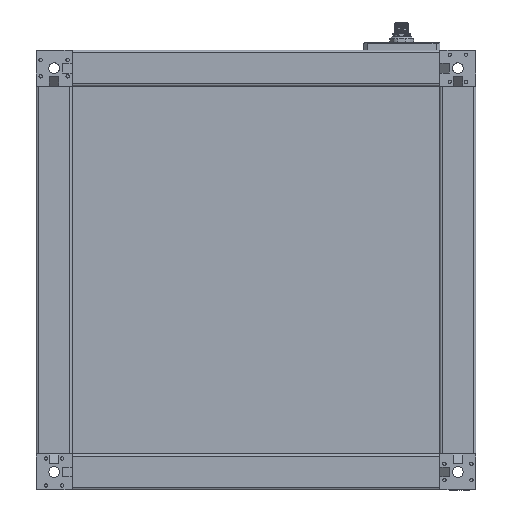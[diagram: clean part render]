
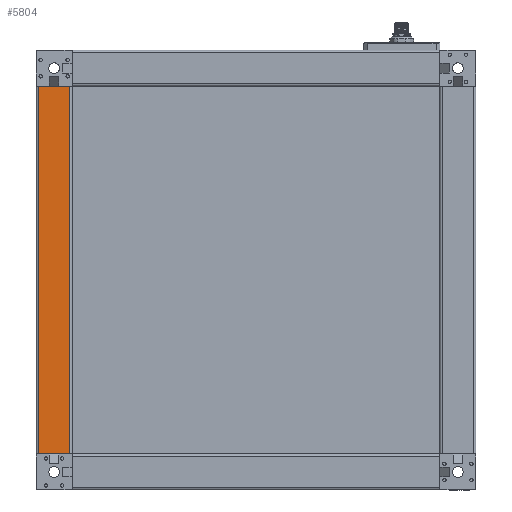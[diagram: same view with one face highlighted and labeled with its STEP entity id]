
A CAD part, front view. The second image highlights one B-rep face of the part: STEP entity #5804.
In plain terms, the highlighted planar face has unit normal (0, -1, 0).
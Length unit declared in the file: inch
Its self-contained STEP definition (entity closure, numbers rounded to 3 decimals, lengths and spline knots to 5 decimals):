
#414 = DIRECTION ( 'NONE',  ( 1., 0., 0. ) ) ;
#3178 = EDGE_LOOP ( 'NONE', ( #30262, #7323, #6278, #36512 ) ) ;
#3431 = VERTEX_POINT ( 'NONE', #9723 ) ;
#4563 = LINE ( 'NONE', #33364, #45299 ) ;
#5804 = ADVANCED_FACE ( 'NONE', ( #9249 ), #8875, .F. ) ;
#6117 = CARTESIAN_POINT ( 'NONE',  ( 0.51181, -0.59055, -6.02362 ) ) ;
#6278 = ORIENTED_EDGE ( 'NONE', *, *, #38190, .F. ) ;
#7323 = ORIENTED_EDGE ( 'NONE', *, *, #41050, .F. ) ;
#8875 = PLANE ( 'NONE',  #48823 ) ;
#9249 = FACE_OUTER_BOUND ( 'NONE', #3178, .T. ) ;
#9595 = CARTESIAN_POINT ( 'NONE',  ( -0.51181, -0.59055, 6.02362 ) ) ;
#9723 = CARTESIAN_POINT ( 'NONE',  ( -0.51181, -0.59055, 6.02362 ) ) ;
#11904 = CARTESIAN_POINT ( 'NONE',  ( -0.51181, -0.59055, -6.02362 ) ) ;
#12032 = VERTEX_POINT ( 'NONE', #11904 ) ;
#12864 = CARTESIAN_POINT ( 'NONE',  ( 0., -0.59055, 6.02362 ) ) ;
#13660 = EDGE_CURVE ( 'NONE', #12032, #32213, #18259, .T. ) ;
#14230 = DIRECTION ( 'NONE',  ( 1., 0., 0. ) ) ;
#15779 = VECTOR ( 'NONE', #14230, 39.37008 ) ;
#16981 = VECTOR ( 'NONE', #414, 39.37008 ) ;
#18259 = LINE ( 'NONE', #47664, #16981 ) ;
#20873 = DIRECTION ( 'NONE',  ( 0., 0., 1. ) ) ;
#21570 = DIRECTION ( 'NONE',  ( 0., 0., -1. ) ) ;
#25664 = VECTOR ( 'NONE', #21570, 39.37008 ) ;
#26881 = LINE ( 'NONE', #9595, #25664 ) ;
#30262 = ORIENTED_EDGE ( 'NONE', *, *, #13660, .T. ) ;
#31140 = EDGE_CURVE ( 'NONE', #3431, #12032, #26881, .T. ) ;
#32213 = VERTEX_POINT ( 'NONE', #6117 ) ;
#33364 = CARTESIAN_POINT ( 'NONE',  ( 0.51181, -0.59055, 6.02362 ) ) ;
#34266 = LINE ( 'NONE', #37860, #15779 ) ;
#36512 = ORIENTED_EDGE ( 'NONE', *, *, #31140, .T. ) ;
#36546 = CARTESIAN_POINT ( 'NONE',  ( 0.51181, -0.59055, 6.02362 ) ) ;
#37860 = CARTESIAN_POINT ( 'NONE',  ( 0., -0.59055, 6.02362 ) ) ;
#38190 = EDGE_CURVE ( 'NONE', #3431, #45174, #34266, .T. ) ;
#41050 = EDGE_CURVE ( 'NONE', #45174, #32213, #4563, .T. ) ;
#44420 = DIRECTION ( 'NONE',  ( 0., 1., 0. ) ) ;
#45174 = VERTEX_POINT ( 'NONE', #36546 ) ;
#45242 = DIRECTION ( 'NONE',  ( 0., 0., -1. ) ) ;
#45299 = VECTOR ( 'NONE', #45242, 39.37008 ) ;
#47664 = CARTESIAN_POINT ( 'NONE',  ( 0., -0.59055, -6.02362 ) ) ;
#48823 = AXIS2_PLACEMENT_3D ( 'NONE', #12864, #44420, #20873 ) ;
